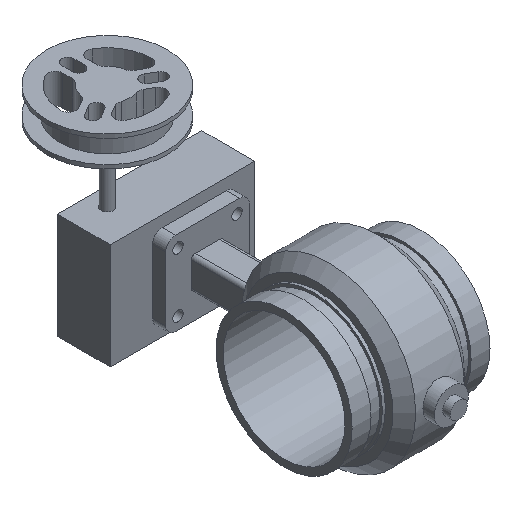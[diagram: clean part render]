
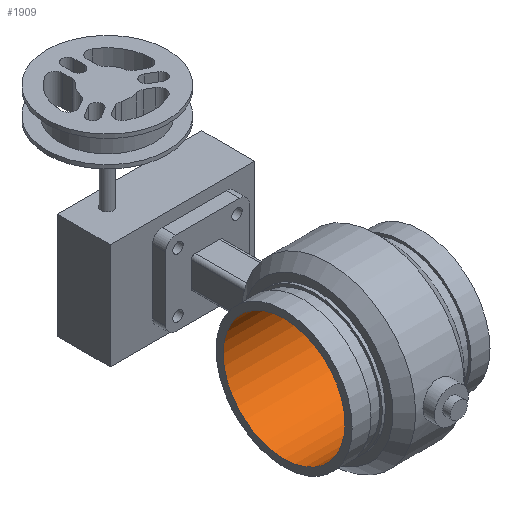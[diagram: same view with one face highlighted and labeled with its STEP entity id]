
A CAD part, isometric view. The second image highlights one B-rep face of the part: STEP entity #1909.
In plain terms, the highlighted cylindrical face has radius 51.13 mm (diameter 102.26 mm), a full revolution.
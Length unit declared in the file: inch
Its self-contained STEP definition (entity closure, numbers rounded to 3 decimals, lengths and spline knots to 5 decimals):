
#190=FACE_OUTER_BOUND('',#317,.T.);
#317=EDGE_LOOP('',(#1601,#1602,#1603,#1604,#1605,#1606));
#458=LINE('',#3297,#583);
#583=VECTOR('',#2671,2.013);
#691=CIRCLE('',#2134,2.013);
#692=CIRCLE('',#2135,2.013);
#693=CIRCLE('',#2136,2.013);
#694=CIRCLE('',#2137,2.013);
#870=VERTEX_POINT('',#3293);
#871=VERTEX_POINT('',#3294);
#872=VERTEX_POINT('',#3296);
#873=VERTEX_POINT('',#3298);
#1121=EDGE_CURVE('',#870,#871,#691,.T.);
#1122=EDGE_CURVE('',#871,#872,#458,.T.);
#1123=EDGE_CURVE('',#873,#872,#692,.T.);
#1124=EDGE_CURVE('',#872,#873,#693,.T.);
#1125=EDGE_CURVE('',#871,#870,#694,.T.);
#1601=ORIENTED_EDGE('',*,*,#1121,.T.);
#1602=ORIENTED_EDGE('',*,*,#1122,.T.);
#1603=ORIENTED_EDGE('',*,*,#1123,.F.);
#1604=ORIENTED_EDGE('',*,*,#1124,.F.);
#1605=ORIENTED_EDGE('',*,*,#1122,.F.);
#1606=ORIENTED_EDGE('',*,*,#1125,.T.);
#1714=CYLINDRICAL_SURFACE('',#2133,2.013);
#1909=ADVANCED_FACE('',(#190),#1714,.F.);
#2133=AXIS2_PLACEMENT_3D('',#3292,#2667,#2668);
#2134=AXIS2_PLACEMENT_3D('',#3295,#2669,#2670);
#2135=AXIS2_PLACEMENT_3D('',#3299,#2672,#2673);
#2136=AXIS2_PLACEMENT_3D('',#3300,#2674,#2675);
#2137=AXIS2_PLACEMENT_3D('',#3301,#2676,#2677);
#2667=DIRECTION('center_axis',(1.,0.,0.));
#2668=DIRECTION('ref_axis',(0.,1.,0.));
#2669=DIRECTION('center_axis',(1.,0.,0.));
#2670=DIRECTION('ref_axis',(0.,0.,-1.));
#2671=DIRECTION('',(-1.,0.,0.));
#2672=DIRECTION('center_axis',(1.,0.,0.));
#2673=DIRECTION('ref_axis',(0.,0.,-1.));
#2674=DIRECTION('center_axis',(1.,0.,0.));
#2675=DIRECTION('ref_axis',(0.,0.,-1.));
#2676=DIRECTION('center_axis',(1.,0.,0.));
#2677=DIRECTION('ref_axis',(0.,0.,-1.));
#3292=CARTESIAN_POINT('Origin',(0.,0.,
0.));
#3293=CARTESIAN_POINT('',(2.28,0.,-2.013));
#3294=CARTESIAN_POINT('',(2.28,-2.013,0.));
#3295=CARTESIAN_POINT('Origin',(2.28,0.,0.));
#3296=CARTESIAN_POINT('',(-2.28,-2.013,0.));
#3297=CARTESIAN_POINT('',(0.,-2.013,0.));
#3298=CARTESIAN_POINT('',(-2.28,2.013,0.));
#3299=CARTESIAN_POINT('Origin',(-2.28,0.,0.));
#3300=CARTESIAN_POINT('Origin',(-2.28,0.,0.));
#3301=CARTESIAN_POINT('Origin',(2.28,0.,0.));
